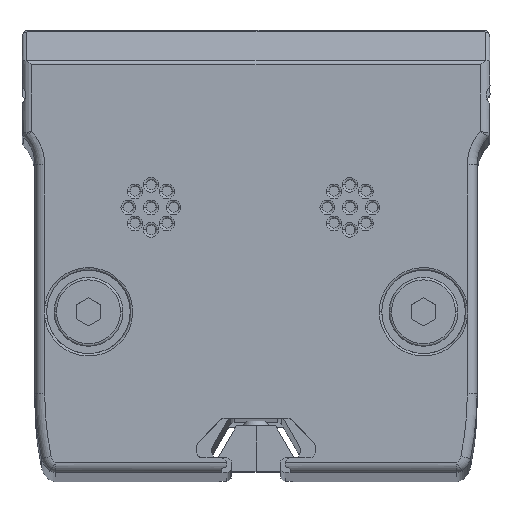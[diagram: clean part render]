
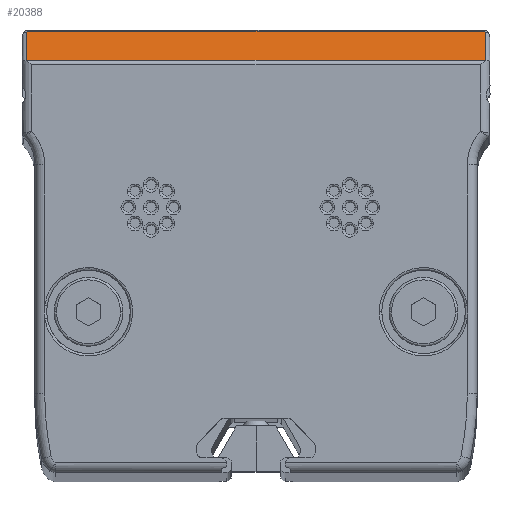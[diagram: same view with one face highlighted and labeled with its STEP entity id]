
A CAD part, top view. The second image highlights one B-rep face of the part: STEP entity #20388.
In plain terms, the highlighted planar face has unit normal (0, 0.858, 0.514).
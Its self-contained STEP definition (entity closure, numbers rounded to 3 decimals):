
#16 = CARTESIAN_POINT ( 'NONE',  ( 23.315, 19.433, 509.907 ) ) ;
#2100 = DIRECTION ( 'NONE',  ( 1., 0., 0. ) ) ;
#2265 = VECTOR ( 'NONE', #19197, 1000. ) ;
#3083 = VERTEX_POINT ( 'NONE', #5446 ) ;
#3420 = CARTESIAN_POINT ( 'NONE',  ( 23.315, 22.387, 504.983 ) ) ;
#3509 = EDGE_LOOP ( 'NONE', ( #23785, #8555, #11687, #8262, #9901, #9998, #6000 ) ) ;
#3627 = VECTOR ( 'NONE', #6974, 1000. ) ;
#3706 = CARTESIAN_POINT ( 'NONE',  ( 23.215, 22.429, 504.914 ) ) ;
#5446 = CARTESIAN_POINT ( 'NONE',  ( -23.315, 22.329, 505.08 ) ) ;
#6000 = ORIENTED_EDGE ( 'NONE', *, *, #13821, .T. ) ;
#6506 = CARTESIAN_POINT ( 'NONE',  ( -23.274, 22.429, 504.914 ) ) ;
#6799 = CARTESIAN_POINT ( 'NONE',  ( 23.215, 22.429, 504.914 ) ) ;
#6938 = DIRECTION ( 'NONE',  ( 0., 0.514, -0.857 ) ) ;
#6974 = DIRECTION ( 'NONE',  ( -1., 0., 0. ) ) ;
#7898 = VERTEX_POINT ( 'NONE', #17250 ) ;
#8156 = VERTEX_POINT ( 'NONE', #28505 ) ;
#8262 = ORIENTED_EDGE ( 'NONE', *, *, #11243, .T. ) ;
#8433 = VECTOR ( 'NONE', #2100, 1000. ) ;
#8477 = CARTESIAN_POINT ( 'NONE',  ( 23.274, 22.429, 504.914 ) ) ;
#8555 = ORIENTED_EDGE ( 'NONE', *, *, #14191, .T. ) ;
#8820 = CARTESIAN_POINT ( 'NONE',  ( 23.215, 22.429, 504.914 ) ) ;
#9138 = DIRECTION ( 'NONE',  ( 0., -0.857, -0.514 ) ) ;
#9901 = ORIENTED_EDGE ( 'NONE', *, *, #22317, .T. ) ;
#9998 = ORIENTED_EDGE ( 'NONE', *, *, #11509, .T. ) ;
#10831 = CARTESIAN_POINT ( 'NONE',  ( -23.215, 22.429, 504.914 ) ) ;
#11243 = EDGE_CURVE ( 'NONE', #8156, #11629, #12893, .T. ) ;
#11428 = EDGE_CURVE ( 'NONE', #13531, #8156, #11921, .T. ) ;
#11437 = CARTESIAN_POINT ( 'NONE',  ( -23.215, 22.429, 504.914 ) ) ;
#11500 = DIRECTION ( 'NONE',  ( 0., 0.514, -0.857 ) ) ;
#11509 = EDGE_CURVE ( 'NONE', #7898, #3083, #23094, .T. ) ;
#11629 = VERTEX_POINT ( 'NONE', #6799 ) ;
#11687 = ORIENTED_EDGE ( 'NONE', *, *, #11428, .T. ) ;
#11921 =( BOUNDED_CURVE ( )  B_SPLINE_CURVE ( 3, ( #15284, #3420, #8477, #3706 ),
 .UNSPECIFIED., .F., .F. ) 
 B_SPLINE_CURVE_WITH_KNOTS ( ( 4, 4 ),
 ( 4.712, 6.283 ),
 .UNSPECIFIED. ) 
 CURVE ( )  GEOMETRIC_REPRESENTATION_ITEM ( )  RATIONAL_B_SPLINE_CURVE ( ( 1., 0.805, 0.805, 1. ) ) 
 REPRESENTATION_ITEM ( '' )  );
#12893 =( BOUNDED_CURVE ( )  B_SPLINE_CURVE ( 3, ( #26779, #26504, #22180, #8820 ),
 .UNSPECIFIED., .F., .F. ) 
 B_SPLINE_CURVE_WITH_KNOTS ( ( 4, 4 ),
 ( 6.283, 6.283 ),
 .UNSPECIFIED. ) 
 CURVE ( )  GEOMETRIC_REPRESENTATION_ITEM ( )  RATIONAL_B_SPLINE_CURVE ( ( 1., 1., 1., 1. ) ) 
 REPRESENTATION_ITEM ( '' )  );
#12928 = CARTESIAN_POINT ( 'NONE',  ( -23.315, 19.433, 509.907 ) ) ;
#13531 = VERTEX_POINT ( 'NONE', #22923 ) ;
#13821 = EDGE_CURVE ( 'NONE', #3083, #22572, #19500, .T. ) ;
#14139 = VECTOR ( 'NONE', #6938, 1000. ) ;
#14191 = EDGE_CURVE ( 'NONE', #15165, #13531, #18216, .T. ) ;
#14764 = CARTESIAN_POINT ( 'NONE',  ( -23.315, 19.287, 510.15 ) ) ;
#15165 = VERTEX_POINT ( 'NONE', #16 ) ;
#15284 = CARTESIAN_POINT ( 'NONE',  ( 23.315, 22.329, 505.08 ) ) ;
#16385 = AXIS2_PLACEMENT_3D ( 'NONE', #18026, #9138, #11500 ) ;
#17250 = CARTESIAN_POINT ( 'NONE',  ( -23.215, 22.429, 504.914 ) ) ;
#17784 = CARTESIAN_POINT ( 'NONE',  ( -23.315, 22.387, 504.983 ) ) ;
#17832 = CARTESIAN_POINT ( 'NONE',  ( 23.82, 19.433, 509.907 ) ) ;
#17876 = FACE_OUTER_BOUND ( 'NONE', #3509, .T. ) ;
#18026 = CARTESIAN_POINT ( 'NONE',  ( 23.82, 19.287, 510.15 ) ) ;
#18216 = LINE ( 'NONE', #27284, #14139 ) ;
#19197 = DIRECTION ( 'NONE',  ( 0., -0.514, 0.857 ) ) ;
#19500 = LINE ( 'NONE', #14764, #2265 ) ;
#20388 = ADVANCED_FACE ( 'NONE', ( #17876 ), #22482, .F. ) ;
#22180 = CARTESIAN_POINT ( 'NONE',  ( 23.215, 22.429, 504.914 ) ) ;
#22317 = EDGE_CURVE ( 'NONE', #11629, #7898, #27032, .T. ) ;
#22482 = PLANE ( 'NONE',  #16385 ) ;
#22572 = VERTEX_POINT ( 'NONE', #12928 ) ;
#22923 = CARTESIAN_POINT ( 'NONE',  ( 23.315, 22.329, 505.08 ) ) ;
#23094 =( BOUNDED_CURVE ( )  B_SPLINE_CURVE ( 3, ( #10831, #6506, #17784, #24495 ),
 .UNSPECIFIED., .F., .T. ) 
 B_SPLINE_CURVE_WITH_KNOTS ( ( 4, 4 ),
 ( 0., 1.571 ),
 .UNSPECIFIED. ) 
 CURVE ( )  GEOMETRIC_REPRESENTATION_ITEM ( )  RATIONAL_B_SPLINE_CURVE ( ( 1., 0.805, 0.805, 1. ) ) 
 REPRESENTATION_ITEM ( '' )  );
#23785 = ORIENTED_EDGE ( 'NONE', *, *, #25082, .T. ) ;
#24495 = CARTESIAN_POINT ( 'NONE',  ( -23.315, 22.329, 505.08 ) ) ;
#25082 = EDGE_CURVE ( 'NONE', #22572, #15165, #26762, .T. ) ;
#26504 = CARTESIAN_POINT ( 'NONE',  ( 23.215, 22.429, 504.914 ) ) ;
#26762 = LINE ( 'NONE', #17832, #8433 ) ;
#26779 = CARTESIAN_POINT ( 'NONE',  ( 23.215, 22.429, 504.914 ) ) ;
#27032 = LINE ( 'NONE', #11437, #3627 ) ;
#27284 = CARTESIAN_POINT ( 'NONE',  ( 23.315, 19.287, 510.15 ) ) ;
#28505 = CARTESIAN_POINT ( 'NONE',  ( 23.215, 22.429, 504.914 ) ) ;
